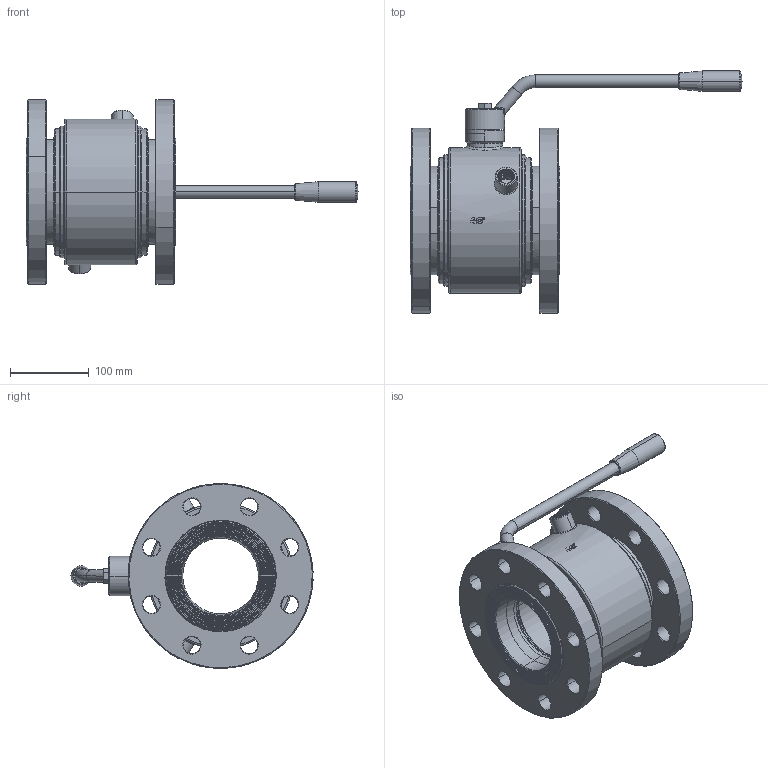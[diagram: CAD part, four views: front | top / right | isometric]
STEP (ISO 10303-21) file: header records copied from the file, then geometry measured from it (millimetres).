
FILE_DESCRIPTION((''),'2;1');
FILE_NAME('130152C65410_SW0001','2026-05-06T09:06:39',('tecnico2'),('CDM Tecnoconsulting'),'CREO PARAMETRIC BY PTC INC, 2024063','CREO PARAMETRIC BY PTC INC, 2024063','');
FILE_SCHEMA(('CONFIG_CONTROL_DESIGN','SHAPE_APPEARANCE_LAYERS_GROUPS'));
Products named in the file (1): 130152C65410_SW0001
Bounding box: 421.5 x 307.39 x 234.78 mm (x, y, z)
Volume: 3798049.1 mm3; surface area: 698493.6 mm2
Topology: 1 solids, 1 shells, 1311 faces, 3369 edges, 2126 vertices
Faces by surface type: plane 474, cylinder 269, cone 215, extrusion 166, bspline 91, torus 82, sphere 14
Entity records: 75725 total; most frequent: CARTESIAN_POINT 34353, ORIENTED_EDGE 6702, DIRECTION 5607, PRESENTATION_STYLE_ASSIGNMENT 3456, STYLED_ITEM 3352, CURVE_STYLE 3351, EDGE_CURVE 3351, VERTEX_POINT 2126
